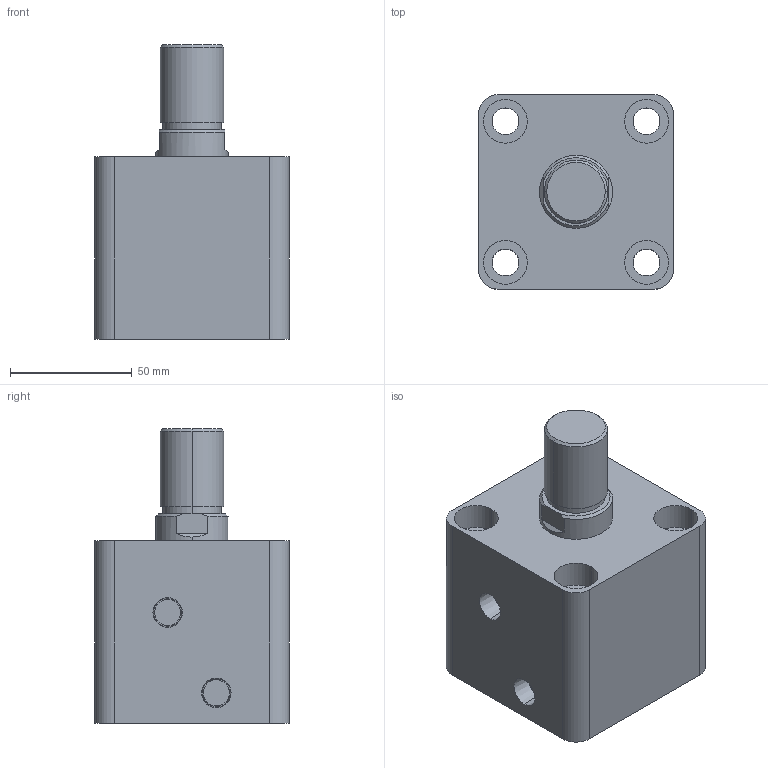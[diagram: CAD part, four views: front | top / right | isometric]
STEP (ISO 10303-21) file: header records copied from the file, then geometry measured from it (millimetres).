
FILE_DESCRIPTION (( 'STEP AP203' ), '1' );
FILE_NAME ('HTB-SD50-15W.STEP', '2019-10-07T07:06:39', ( '微软用户' ), ( '微软中国' ), 'SwSTEP 2.0', 'SolidWorks 2012', '' );
FILE_SCHEMA (( 'CONFIG_CONTROL_DESIGN' ));
Length unit declared in the file: millimetre
Products named in the file (3): HTB-SD50-15W活塞杆; HTB-SD50-15W; HTB-SD50-15掛极
Assembly tree (2 placements, depth 2):
  HTB-SD50-15W
    HTB-SD50-15掛极
    HTB-SD50-15W活塞杆
Bounding box: 80 x 80 x 121 mm (x, y, z)
Volume: 437894.5 mm3; surface area: 73950.6 mm2
Topology: 2 solids, 2 shells, 87 faces, 190 edges, 124 vertices
Faces by surface type: cylinder 44, plane 29, cone 8, torus 6
Entity records: 2761 total; most frequent: DIRECTION 478, CARTESIAN_POINT 434, ORIENTED_EDGE 380, AXIS2_PLACEMENT_3D 204, EDGE_CURVE 190, VERTEX_POINT 124, EDGE_LOOP 112, CIRCLE 112
